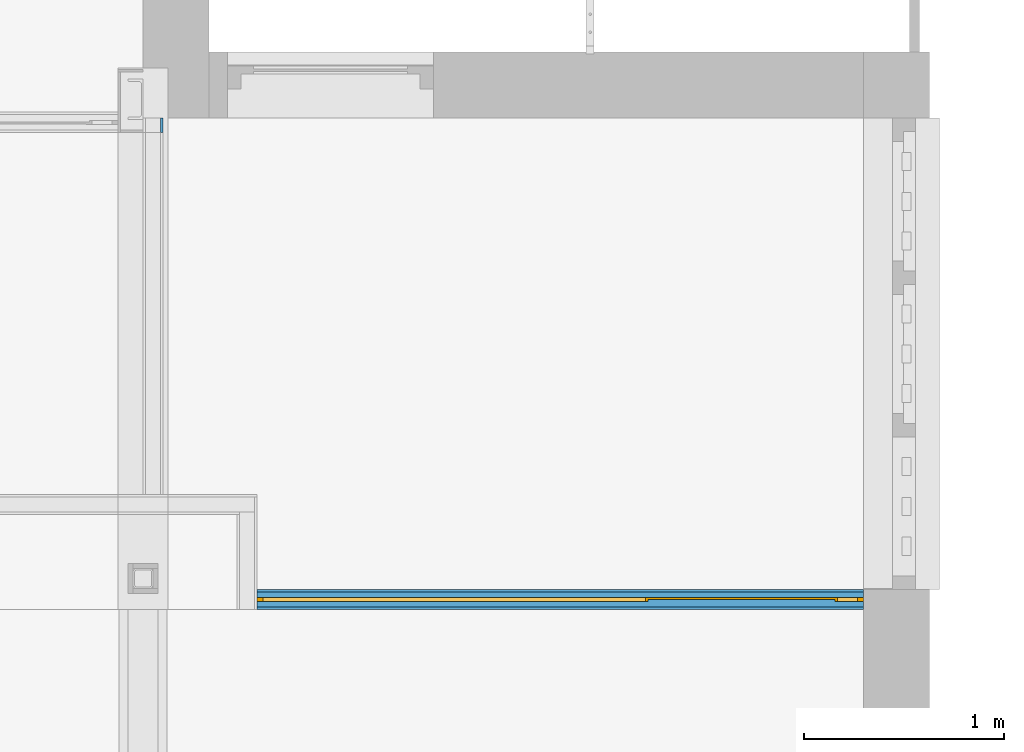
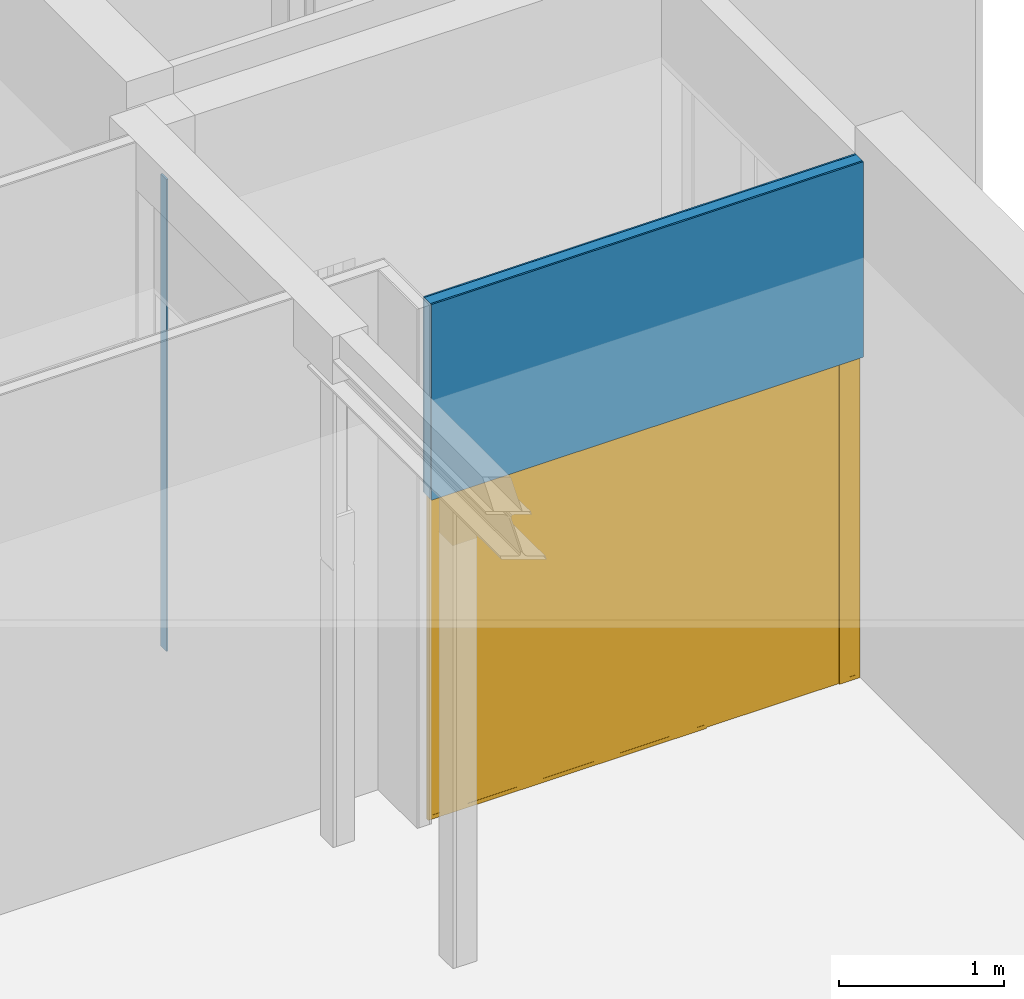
# One storey, part 112 of 135: 4 building element parts, 1 door, 1 opening, 2 elements without a shape of their own.
"""IFC2X3 building model written with IfcOpenShell, lengths in millimetres."""

from ifc_helpers import new_model, entity, si_unit, converted_unit, derived_unit, money_unit, direction, frame, origin_with_axes, place, context, subcontext, project, spatial, open_shell, faceted_brep, surface_model, material, type_object, element, fill, aggregate, save


model = new_model("IFC2X3")

# Units and contexts
model_context = context("Model", 3, precision=0.01, world=origin_with_axes(), true_north=direction((0.0, 1.0)))
body_context = subcontext(model_context, "Body", "Model", "MODEL_VIEW")
ifc_project = project(units=[si_unit("LENGTHUNIT", "METRE", prefix="MILLI"), si_unit("AREAUNIT", "SQUARE_METRE"), si_unit("VOLUMEUNIT", "CUBIC_METRE"), converted_unit("PLANEANGLEUNIT", "DEGREE", entity("IfcPlaneAngleMeasure", 0.0174532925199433), si_unit("PLANEANGLEUNIT", "RADIAN"), dimensions=[0, 0, 0, 0, 0, 0, 0]), money_unit("EUR"), converted_unit("TIMEUNIT", "Year", entity("IfcTimeMeasure", 31557600.0), si_unit("TIMEUNIT", "SECOND"), dimensions=[0, 0, 1, 0, 0, 0, 0]), si_unit("MASSUNIT", "GRAM", prefix="KILO"), si_unit("THERMODYNAMICTEMPERATUREUNIT", "DEGREE_CELSIUS"), si_unit("LUMINOUSINTENSITYUNIT", "LUMEN"), si_unit("ENERGYUNIT", "JOULE", prefix="MEGA"), derived_unit("THERMALCONDUCTANCEUNIT", [(si_unit("POWERUNIT", "WATT"), 1), (si_unit("LENGTHUNIT", "METRE"), -1), (si_unit("THERMODYNAMICTEMPERATUREUNIT", "KELVIN"), -1)]), derived_unit("SPECIFICHEATCAPACITYUNIT", [(si_unit("ENERGYUNIT", "JOULE"), 1), (si_unit("MASSUNIT", "GRAM", prefix="KILO"), -1), (si_unit("THERMODYNAMICTEMPERATUREUNIT", "KELVIN"), -1)]), derived_unit("MASSDENSITYUNIT", [(si_unit("MASSUNIT", "GRAM", prefix="KILO"), 1), (si_unit("VOLUMEUNIT", "CUBIC_METRE"), -1)])], contexts=[model_context])

# Site, building, storey
site_placement = place(None, origin_with_axes())
site = spatial("IfcSite", under=ifc_project, at=site_placement, Name="Site", CompositionType="ELEMENT")
building_placement = place(site_placement, origin_with_axes())
building = spatial("IfcBuilding", under=site, at=building_placement, Name="Naam gebouw", CompositionType="ELEMENT")
storey_placement = place(building_placement, origin_with_axes())
storey = spatial("IfcBuildingStorey", under=building, at=storey_placement, Name="Begane grond N", CompositionType="ELEMENT", Elevation=0.0)

# Door
door_style = type_object("IfcDoorStyle", Name="D1 zl2 27", ConstructionType="NOTDEFINED", OperationType="USERDEFINED", ParameterTakesPrecedence=False, Sizeable=False)
wall_2_placement = place(storey_placement, frame((54569.99999999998, 17920.91242510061, 0.0), z_axis=(0.0, 0.0, 1.0), x_axis=(1.0, 0.0, 0.0)))
opening_placement = place(wall_2_placement, frame((1515.000000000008, 0.0, 0.0), z_axis=(0.0, 0.0, 1.0), x_axis=(1.0, 0.0, 0.0)))
door_placement = place(opening_placement, frame((1515.000000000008, 0.0, 0.0), z_axis=(0.0, 0.0, 1.0), x_axis=(-1.0, 0.0, 0.0)))
door = element("IfcDoor", 1, at=door_placement, inside=storey, type_object=door_style, Name="_Merk-x", ObjectType="DOOR", OverallHeight=2400.0, OverallWidth=3030.0, context=body_context, shape_type="SurfaceModel", body=[
    faceted_brep([(3030.000000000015, 10.00000000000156, 0.0), (3030.000000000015, -9.99999999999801, 0.0), (3000.000000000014, -9.99999999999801, 0.0), (3000.000000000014, 10.00000000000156, 0.0), (3030.000000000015, 10.00000000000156, 2370.0), (3030.000000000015, -9.99999999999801, 2370.0), (3000.000000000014, -9.99999999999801, 2370.0), (3000.000000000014, -9.99999999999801, 30.0), (3000.000000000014, 10.00000000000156, 30.0), (3000.000000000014, 10.00000000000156, 2370.0)], [[[0, 1, 2, 3]], [[4, 5, 1, 0]], [[1, 5, 6, 7, 2]], [[3, 2, 7, 8]], [[0, 3, 8, 9, 4]], [[9, 6, 5, 4]], [[8, 7, 6, 9]]]),
    faceted_brep([(1060.000000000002, -8.999999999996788, 0.0), (1060.000000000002, -9.99999999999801, 0.0), (1060.000000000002, -9.99999999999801, 2370.0), (1060.000000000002, -8.999999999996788, 2370.0), (1077.000000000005, -8.999999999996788, 0.0), (1077.000000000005, 10.00000000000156, 0.0), (1090.000000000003, 10.00000000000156, 0.0), (1090.000000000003, -9.99999999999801, 0.0), (1090.000000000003, -9.99999999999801, 30.00000000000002), (1090.000000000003, -9.99999999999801, 2370.0), (1077.000000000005, -8.999999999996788, 2370.0), (1090.000000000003, 10.00000000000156, 2370.0), (1077.000000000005, 10.00000000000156, 2370.0), (1090.000000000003, 10.00000000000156, 30.00000000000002)], [[[0, 1, 2, 3]], [[4, 5, 6, 7, 1, 0]], [[7, 8, 9, 2, 1]], [[10, 3, 2, 9, 11, 12]], [[10, 4, 0, 3]], [[12, 5, 4, 10]], [[12, 11, 13, 6, 5]], [[6, 13, 8, 7]], [[13, 11, 9, 8]]]),
    faceted_brep([(3000.000000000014, 10.00000000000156, 30.0), (3000.000000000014, -9.99999999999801, 30.0), (3000.000000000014, -9.99999999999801, 0.0), (3000.000000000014, 10.00000000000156, 0.0), (1090.000000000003, 10.00000000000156, 30.0), (1090.000000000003, -9.99999999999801, 30.0), (1090.000000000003, -9.99999999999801, 0.0), (1090.000000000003, 10.00000000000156, 0.0)], [[[0, 1, 2, 3]], [[4, 5, 1, 0]], [[1, 5, 6, 2]], [[3, 2, 6, 7]], [[0, 3, 7, 4]], [[7, 6, 5, 4]]]),
    faceted_brep([(0.0, 10.00000000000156, 0.0), (0.0, -9.99999999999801, 0.0), (0.0, -9.99999999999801, 2370.0), (0.0, 10.00000000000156, 2370.0), (30.00000000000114, 10.00000000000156, 0.0), (30.00000000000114, -9.99999999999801, 0.0), (30.00000000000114, -9.99999999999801, 30.0), (30.00000000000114, -9.99999999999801, 2370.0), (30.00000000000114, 10.00000000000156, 2370.0), (30.00000000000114, 10.00000000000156, 30.0)], [[[0, 1, 2, 3]], [[4, 5, 1, 0]], [[1, 5, 6, 7, 2]], [[3, 2, 7, 8]], [[0, 3, 8, 9, 4]], [[9, 6, 5, 4]], [[8, 7, 6, 9]]]),
    faceted_brep([(143.0000000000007, -8.999999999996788, 2370.0), (143.0000000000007, 10.00000000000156, 2370.0), (130.0000000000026, 10.00000000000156, 2370.0), (130.0000000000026, -9.99999999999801, 2370.0), (160.0000000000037, -9.99999999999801, 2370.0), (160.0000000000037, -8.999999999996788, 2370.0), (143.0000000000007, -8.999999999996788, 0.0), (143.0000000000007, 10.00000000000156, 0.0), (130.0000000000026, 10.00000000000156, 0.0), (130.0000000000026, 10.00000000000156, 30.00000000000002), (130.0000000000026, -9.99999999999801, 30.00000000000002), (160.0000000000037, -9.99999999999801, 0.0), (130.0000000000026, -9.99999999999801, 0.0), (160.0000000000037, -8.999999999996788, 0.0)], [[[0, 1, 2, 3, 4, 5]], [[0, 6, 7, 1]], [[7, 8, 9, 2, 1]], [[2, 9, 10, 3]], [[11, 4, 3, 10, 12]], [[5, 4, 11, 13]], [[5, 13, 6, 0]], [[6, 13, 11, 12, 8, 7]], [[9, 8, 12, 10]]]),
    faceted_brep([(130.0000000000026, 10.00000000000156, 30.0), (130.0000000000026, -9.99999999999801, 30.0), (130.0000000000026, -9.99999999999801, 0.0), (130.0000000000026, 10.00000000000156, 0.0), (30.00000000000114, 10.00000000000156, 30.0), (30.00000000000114, -9.99999999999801, 30.0), (30.00000000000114, -9.99999999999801, 0.0), (30.00000000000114, 10.00000000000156, 0.0)], [[[0, 1, 2, 3]], [[4, 5, 1, 0]], [[1, 5, 6, 2]], [[3, 2, 6, 7]], [[0, 3, 7, 4]], [[7, 6, 5, 4]]]),
    faceted_brep([(1077.000000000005, 10.00000000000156, 2387.0), (143.0000000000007, 10.00000000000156, 2387.0), (143.0000000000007, 10.00000000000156, 2370.0), (130.0000000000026, 10.00000000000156, 2370.0), (30.00000000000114, 10.00000000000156, 2370.0), (0.0, 10.00000000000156, 2370.0), (0.0, 10.00000000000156, 2400.0), (3030.000000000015, 10.00000000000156, 2400.0), (3030.000000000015, 10.00000000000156, 2370.0), (3000.000000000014, 10.00000000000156, 2370.0), (1090.000000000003, 10.00000000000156, 2370.0), (1077.000000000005, 10.00000000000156, 2370.0), (1077.000000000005, -8.999999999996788, 2387.0), (143.0000000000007, -8.999999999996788, 2387.0), (143.0000000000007, -8.999999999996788, 2370.0), (160.0000000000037, -8.999999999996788, 2370.0), (160.0000000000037, -9.99999999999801, 2370.0), (130.0000000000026, -9.99999999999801, 2370.0), (30.00000000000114, -9.99999999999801, 2370.0), (0.0, -9.99999999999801, 2370.0), (0.0, -9.99999999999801, 2400.0), (3030.000000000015, -9.99999999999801, 2400.0), (3030.000000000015, -9.99999999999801, 2370.0), (3000.000000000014, -9.99999999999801, 2370.0), (1090.000000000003, -9.99999999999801, 2370.0), (1077.000000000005, -8.999999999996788, 2370.0), (1060.000000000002, -9.99999999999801, 2370.0)], [[[0, 1, 2, 3, 4, 5, 6, 7, 8, 9, 10, 11]], [[0, 12, 13, 1]], [[1, 13, 14, 2]], [[14, 15, 16, 17, 18, 4, 3, 2]], [[5, 4, 18, 19]], [[6, 5, 19, 20]], [[7, 6, 20, 21]], [[8, 7, 21, 22]], [[9, 8, 22, 23]], [[10, 9, 23, 24]], [[25, 11, 10, 24, 26, 16, 15]], [[11, 25, 12, 0]], [[14, 13, 12, 25, 15]], [[18, 17, 16, 26, 24, 23, 22, 21, 20, 19]]]),
    faceted_brep([(143.0000000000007, 1.000000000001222, 0.0), (1077.000000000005, 1.000000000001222, 0.0), (1077.000000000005, -8.999999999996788, 0.0), (143.0000000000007, -8.999999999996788, 0.0), (143.0000000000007, 1.000000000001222, 2387.0), (1077.000000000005, 1.000000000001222, 2387.0), (1077.000000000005, -9.000000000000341, 2387.0), (143.0000000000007, -8.999999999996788, 2387.0)], [[[0, 1, 2, 3]], [[0, 4, 5, 1]], [[1, 5, 6, 2]], [[3, 2, 6, 7]], [[4, 0, 3, 7]], [[5, 4, 7, 6]]]),
    surface_model("IfcShellBasedSurfaceModel", [(3000.000000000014, 9.000000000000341, 30.0), (1090.000000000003, 9.000000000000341, 30.0), (1090.000000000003, 9.000000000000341, 2370.0), (3000.000000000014, 9.000000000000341, 2370.0)], [open_shell([[[0, 1, 2, 3]]])]),
    surface_model("IfcShellBasedSurfaceModel", [(3000.000000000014, 1.000000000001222, 30.0), (3000.000000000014, 1.000000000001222, 2370.0), (1090.000000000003, 1.000000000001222, 2370.0), (1090.000000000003, 1.000000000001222, 30.0)], [open_shell([[[0, 1, 2, 3]]])]),
    surface_model("IfcShellBasedSurfaceModel", [(130.0000000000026, 9.000000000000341, 30.0), (30.00000000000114, 9.000000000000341, 30.0), (30.00000000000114, 9.000000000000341, 2370.0), (130.0000000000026, 9.000000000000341, 2370.0)], [open_shell([[[0, 1, 2, 3]]])]),
    surface_model("IfcShellBasedSurfaceModel", [(130.0000000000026, 1.000000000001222, 30.0), (130.0000000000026, 1.000000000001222, 2370.0), (30.00000000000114, 1.000000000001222, 2370.0), (30.00000000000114, 1.000000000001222, 30.0)], [open_shell([[[0, 1, 2, 3]]])]),
])

# Wall, building element part
wall_type = type_object("IfcWallType", Name="Metalstud iso 100 100", PredefinedType="NOTDEFINED")
wall_1_placement = place(storey_placement, frame((54100.0, 20255.91242510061, 0.0), z_axis=(0.0, 0.0, 1.0), x_axis=(0.0, 1.0, 0.0)))
wall_1 = element("IfcWall", 2, at=wall_1_placement, inside=storey, type_object=wall_type, Name="_Wand-x")
ifc_material_1 = material(Name="Gipsplaat")
building_element_part_1_placement = place(wall_1_placement, origin_with_axes())
building_element_part_1 = element("IfcBuildingElementPart", 3, at=building_element_part_1_placement, material=ifc_material_1, Name="Gipsplaat", context=body_context, shape_type="Brep", body=[
    faceted_brep([(69.99999999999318, 12.50000000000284, 3499.999993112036), (69.99999999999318, 0.0, 3499.999993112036), (69.99999999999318, 0.0, 0.0), (69.99999999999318, 12.50000000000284, 0.0), (0.0, 0.0, 3499.999993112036), (0.0, 12.50000000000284, 3499.999993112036), (0.0, 0.0, 2690.0), (0.0, 0.0, 0.0), (0.0, 12.50000000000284, 0.0)], [[[0, 1, 2, 3]], [[4, 1, 0, 5]], [[1, 4, 6, 7, 2]], [[3, 2, 7, 8]], [[5, 0, 3, 8]], [[4, 5, 8, 7, 6]]]),
])
aggregate(wall_1, [building_element_part_1])

# Wall, opening
wall_2 = element("IfcWall", 4, at=wall_2_placement, inside=storey, type_object=wall_type, Name="_Wand-x")
opening = element("IfcOpeningElement", 5, at=opening_placement, cuts=wall_2, Name="_Merk-x", context=body_context, shape_type="Brep", body=[
    faceted_brep([(1515.000000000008, -10.00000000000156, 0.0), (1515.000000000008, -10.00000000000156, 2400.0), (1515.000000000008, -51.00000000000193, 2400.0), (1515.000000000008, -51.00000000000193, 0.0), (1515.000000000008, 51.00000000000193, 0.0), (1515.000000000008, 51.00000000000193, 2400.0), (-1515.000000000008, -10.00000000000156, 2400.0), (-1515.000000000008, -51.00000000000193, 2400.0), (-1515.000000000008, 51.00000000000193, 2400.0), (-1515.000000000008, -51.00000000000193, 0.0), (-1515.000000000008, -10.00000000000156, 0.0), (-1515.000000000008, 51.00000000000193, 0.0)], [[[0, 1, 2, 3]], [[1, 0, 4, 5]], [[6, 7, 2, 1, 5, 8]], [[7, 9, 3, 2]], [[0, 3, 9, 10, 11, 4]], [[5, 4, 11, 8]], [[6, 10, 9, 7]], [[10, 6, 8, 11]]]),
])

fill(opening, door)

# Building element part
building_element_part_2_placement = place(wall_2_placement, origin_with_axes())
building_element_part_2 = element("IfcBuildingElementPart", 6, at=building_element_part_2_placement, material=ifc_material_1, Name="Gipsplaat", context=body_context, shape_type="Brep", body=[
    faceted_brep([(3030.000000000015, 37.50000000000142, 2400.0), (3030.000000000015, 50.00000000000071, 2400.0), (3030.000000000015, 50.00000000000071, 3850.0), (3030.000000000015, 37.50000000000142, 3850.0), (0.0, 50.00000000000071, 2400.0), (0.0, 37.50000000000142, 2400.0), (0.0, 50.00000000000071, 3850.0), (0.0, 37.50000000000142, 3850.0)], [[[0, 1, 2, 3]], [[4, 1, 0, 5]], [[1, 4, 6, 2]], [[6, 7, 3, 2]], [[5, 0, 3, 7]], [[4, 5, 7, 6]]]),
])

ifc_material_2 = material(Name="Isolatie - Steenwol LSW")
building_element_part_3_placement = place(wall_2_placement, origin_with_axes())
building_element_part_3 = element("IfcBuildingElementPart", 7, at=building_element_part_3_placement, material=ifc_material_2, Name="Isolatie - Steenwol LSW", context=body_context, shape_type="Brep", body=[
    faceted_brep([(3030.000000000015, -10.00000000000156, 2400.0), (3030.000000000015, 37.50000000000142, 2400.0), (3030.000000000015, 37.50000000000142, 3850.0), (3030.000000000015, -37.49999999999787, 3850.0), (3030.000000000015, -37.49999999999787, 2400.0), (0.0, -10.00000000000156, 2400.0), (0.0, 37.50000000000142, 2400.0), (0.0, -37.50000000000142, 2400.0), (0.0, 37.50000000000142, 3850.0), (0.0, -37.50000000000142, 3850.0)], [[[0, 1, 2, 3, 4]], [[5, 6, 1, 0, 4, 7]], [[1, 6, 8, 2]], [[9, 3, 2, 8]], [[4, 3, 9, 7]], [[6, 5, 7, 9, 8]]]),
])

building_element_part_4_placement = place(wall_2_placement, origin_with_axes())
building_element_part_4 = element("IfcBuildingElementPart", 8, at=building_element_part_4_placement, material=ifc_material_1, Name="Gipsplaat", context=body_context, shape_type="Brep", body=[
    faceted_brep([(3030.000000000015, -50.00000000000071, 2400.0), (3030.000000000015, -37.49999999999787, 2400.0), (3030.000000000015, -37.49999999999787, 3850.0), (3030.000000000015, -50.00000000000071, 3850.0), (0.0, -37.50000000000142, 2400.0), (0.0, -50.00000000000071, 2400.0), (0.0, -37.50000000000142, 3850.0), (0.0, -50.00000000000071, 3850.0)], [[[0, 1, 2, 3]], [[4, 1, 0, 5]], [[1, 4, 6, 2]], [[6, 7, 3, 2]], [[5, 0, 3, 7]], [[4, 5, 7, 6]]]),
])

aggregate(wall_2, [building_element_part_2, building_element_part_3, building_element_part_4])

save(model, "model.ifc")
